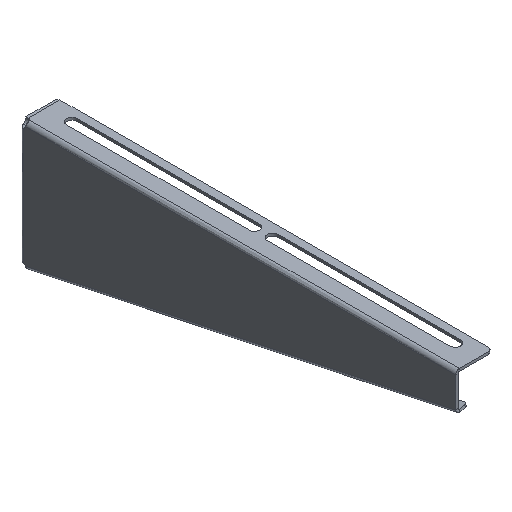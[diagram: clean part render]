
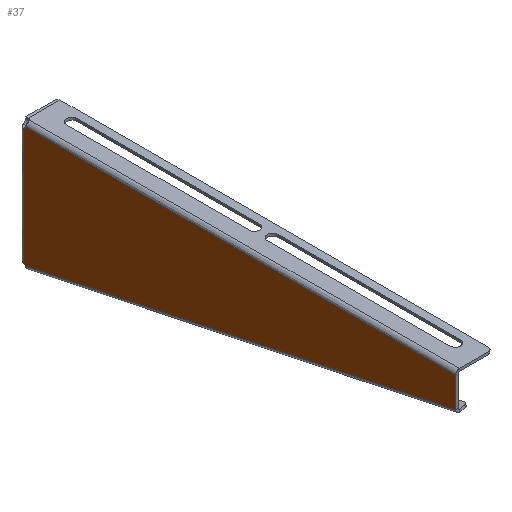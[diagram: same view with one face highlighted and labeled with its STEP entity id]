
A CAD part, isometric view. The second image highlights one B-rep face of the part: STEP entity #37.
In plain terms, the highlighted planar face has unit normal (-1, 0, 0).
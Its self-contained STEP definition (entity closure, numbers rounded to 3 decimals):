
#37=ADVANCED_FACE('',(#94),#858,.T.);
#94=FACE_OUTER_BOUND('',#151,.T.);
#151=EDGE_LOOP('',(#267,#268,#269,#270,#271,#272));
#267=ORIENTED_EDGE('',*,*,#521,.T.);
#268=ORIENTED_EDGE('',*,*,#511,.T.);
#269=ORIENTED_EDGE('',*,*,#488,.T.);
#270=ORIENTED_EDGE('',*,*,#513,.T.);
#271=ORIENTED_EDGE('',*,*,#522,.T.);
#272=ORIENTED_EDGE('',*,*,#518,.T.);
#488=EDGE_CURVE('',#766,#767,#627,.T.);
#511=EDGE_CURVE('',#782,#766,#696,.T.);
#513=EDGE_CURVE('',#767,#783,#698,.T.);
#518=EDGE_CURVE('',#786,#788,#703,.T.);
#521=EDGE_CURVE('',#788,#782,#706,.T.);
#522=EDGE_CURVE('',#783,#786,#707,.T.);
#627=B_SPLINE_CURVE_WITH_KNOTS('',3,(#1457,#1458,#1459,#1460),
 .UNSPECIFIED.,.F.,.F.,(4,4),(0.,347.653),.UNSPECIFIED.);
#696=(
BOUNDED_CURVE()
B_SPLINE_CURVE(2,(#1530,#1531,#1532,#1533,#1534),.UNSPECIFIED.,.F.,.F.)
B_SPLINE_CURVE_WITH_KNOTS((3,2,3),(-805.019,-803.671,
-802.699),.UNSPECIFIED.)
CURVE()
GEOMETRIC_REPRESENTATION_ITEM()
RATIONAL_B_SPLINE_CURVE((1.,0.969,0.987,0.981,
1.))
REPRESENTATION_ITEM('')
);
#698=(
BOUNDED_CURVE()
B_SPLINE_CURVE(2,(#1537,#1538,#1539),.UNSPECIFIED.,.F.,.F.)
B_SPLINE_CURVE_WITH_KNOTS((3,3),(-454.917,-427.917),
 .UNSPECIFIED.)
CURVE()
GEOMETRIC_REPRESENTATION_ITEM()
RATIONAL_B_SPLINE_CURVE((1.,1.,1.))
REPRESENTATION_ITEM('')
);
#703=(
BOUNDED_CURVE()
B_SPLINE_CURVE(2,(#1552,#1553,#1554,#1555,#1556),.UNSPECIFIED.,.F.,.F.)
B_SPLINE_CURVE_WITH_KNOTS((3,2,3),(11.72,13.069,14.417),
 .UNSPECIFIED.)
CURVE()
GEOMETRIC_REPRESENTATION_ITEM()
RATIONAL_B_SPLINE_CURVE((1.,0.975,1.,0.975,1.))
REPRESENTATION_ITEM('')
);
#706=(
BOUNDED_CURVE()
B_SPLINE_CURVE(2,(#1563,#1564,#1565),.UNSPECIFIED.,.F.,.F.)
B_SPLINE_CURVE_WITH_KNOTS((3,3),(-904.096,-805.019),
 .UNSPECIFIED.)
CURVE()
GEOMETRIC_REPRESENTATION_ITEM()
RATIONAL_B_SPLINE_CURVE((1.,1.,1.))
REPRESENTATION_ITEM('')
);
#707=(
BOUNDED_CURVE()
B_SPLINE_CURVE(2,(#1566,#1567,#1568),.UNSPECIFIED.,.F.,.F.)
B_SPLINE_CURVE_WITH_KNOTS((3,3),(-427.917,11.72),
 .UNSPECIFIED.)
CURVE()
GEOMETRIC_REPRESENTATION_ITEM()
RATIONAL_B_SPLINE_CURVE((1.,1.,1.))
REPRESENTATION_ITEM('')
);
#766=VERTEX_POINT('',#1354);
#767=VERTEX_POINT('',#1355);
#782=VERTEX_POINT('',#1370);
#783=VERTEX_POINT('',#1371);
#786=VERTEX_POINT('',#1374);
#788=VERTEX_POINT('',#1376);
#858=PLANE('',#1007);
#1007=AXIS2_PLACEMENT_3D('',#1175,#1055,$);
#1055=DIRECTION('',(-1.,0.,0.));
#1175=CARTESIAN_POINT('',(1.751,42.75,-170.234));
#1354=CARTESIAN_POINT('',(1.751,-1.677,-158.278));
#1355=CARTESIAN_POINT('',(1.751,-342.,-86.631));
#1370=CARTESIAN_POINT('',(1.751,0.,-156.803));
#1371=CARTESIAN_POINT('',(1.751,-342.,-62.631));
#1374=CARTESIAN_POINT('',(1.751,-1.828,-62.631));
#1376=CARTESIAN_POINT('',(1.751,0.,-64.46));
#1457=CARTESIAN_POINT('',(1.751,-1.677,-158.278));
#1458=CARTESIAN_POINT('',(1.751,-115.118,-134.396));
#1459=CARTESIAN_POINT('',(1.751,-228.56,-110.513));
#1460=CARTESIAN_POINT('',(1.751,-342.,-86.631));
#1530=CARTESIAN_POINT('',(1.751,0.,-156.803));
#1531=CARTESIAN_POINT('',(1.751,-0.641,-157.029));
#1532=CARTESIAN_POINT('',(1.751,-1.121,-157.51));
#1533=CARTESIAN_POINT('',(1.751,-1.461,-157.849));
#1534=CARTESIAN_POINT('',(1.751,-1.677,-158.278));
#1537=CARTESIAN_POINT('',(1.751,-342.,-86.631));
#1538=CARTESIAN_POINT('',(1.751,-342.,-74.631));
#1539=CARTESIAN_POINT('',(1.751,-342.,-62.631));
#1552=CARTESIAN_POINT('',(1.751,-1.828,-62.631));
#1553=CARTESIAN_POINT('',(1.751,-1.602,-63.272));
#1554=CARTESIAN_POINT('',(1.751,-1.121,-63.752));
#1555=CARTESIAN_POINT('',(1.751,-0.641,-64.233));
#1556=CARTESIAN_POINT('',(1.751,0.,-64.46));
#1563=CARTESIAN_POINT('',(1.751,0.,-64.46));
#1564=CARTESIAN_POINT('',(1.751,0.,-110.631));
#1565=CARTESIAN_POINT('',(1.751,0.,-156.803));
#1566=CARTESIAN_POINT('',(1.751,-342.,-62.631));
#1567=CARTESIAN_POINT('',(1.751,-171.914,-62.631));
#1568=CARTESIAN_POINT('',(1.751,-1.828,-62.631));
